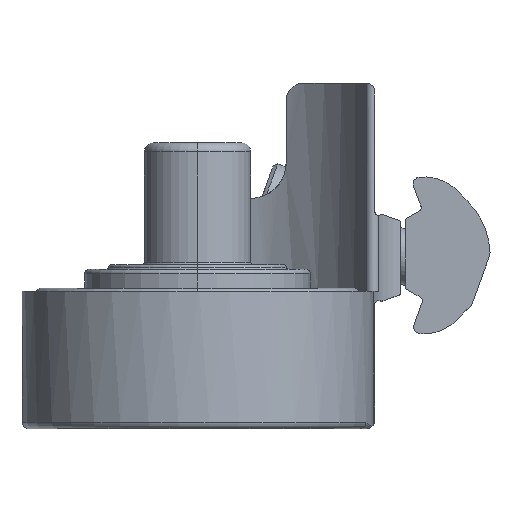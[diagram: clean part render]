
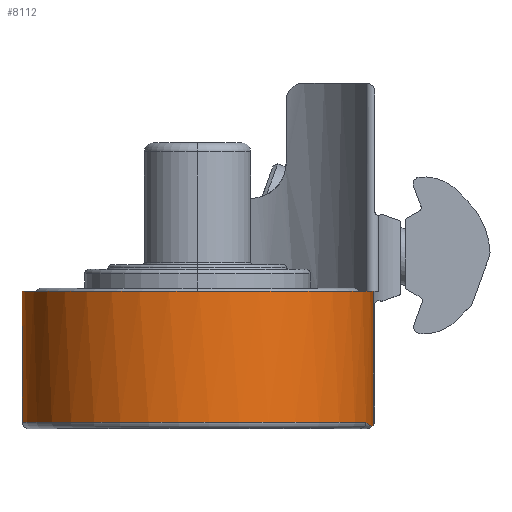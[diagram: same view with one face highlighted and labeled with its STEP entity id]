
A CAD part, left-side view. The second image highlights one B-rep face of the part: STEP entity #8112.
In plain terms, the highlighted cylindrical face has radius 19.8 mm (diameter 39.6 mm), a partial arc.
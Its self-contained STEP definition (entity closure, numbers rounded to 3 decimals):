
#230 = EDGE_CURVE ( 'NONE', #5181, #843, #6630, .T. ) ;
#410 = CARTESIAN_POINT ( 'NONE',  ( -0.442, 0.2, -19.1 ) ) ;
#517 = CARTESIAN_POINT ( 'NONE',  ( 0., 0.2, -19.1 ) ) ;
#673 = CARTESIAN_POINT ( 'NONE',  ( 0., 20., -18.738 ) ) ;
#843 = VERTEX_POINT ( 'NONE', #3829 ) ;
#893 = CARTESIAN_POINT ( 'NONE',  ( 18.079, 28.073, -18.738 ) ) ;
#988 = EDGE_CURVE ( 'NONE', #8105, #3961, #8562, .T. ) ;
#1322 = CARTESIAN_POINT ( 'NONE',  ( -5.571, 1., -18.738 ) ) ;
#1362 = CARTESIAN_POINT ( 'NONE',  ( -5.571, 1., -18.738 ) ) ;
#1379 = EDGE_CURVE ( 'NONE', #5181, #7176, #7274, .T. ) ;
#1609 = CARTESIAN_POINT ( 'NONE',  ( 0., 20., -4. ) ) ;
#1653 = ORIENTED_EDGE ( 'NONE', *, *, #1379, .T. ) ;
#1677 = CARTESIAN_POINT ( 'NONE',  ( 19.393, 23.992, -7. ) ) ;
#1702 = ORIENTED_EDGE ( 'NONE', *, *, #230, .F. ) ;
#1725 = LINE ( 'NONE', #8455, #2103 ) ;
#1740 = AXIS2_PLACEMENT_3D ( 'NONE', #8658, #8853, #3006 ) ;
#1901 = CARTESIAN_POINT ( 'NONE',  ( 0., 0.2, -19.1 ) ) ;
#2083 = DIRECTION ( 'NONE',  ( 0., 0., 1. ) ) ;
#2103 = VECTOR ( 'NONE', #7551, 1000. ) ;
#2200 = EDGE_LOOP ( 'NONE', ( #1702, #1653, #6513, #9129, #7645, #3227, #9171, #5737 ) ) ;
#2304 = CARTESIAN_POINT ( 'NONE',  ( 0., 20., -7. ) ) ;
#2421 = AXIS2_PLACEMENT_3D ( 'NONE', #2304, #6806, #3955 ) ;
#2695 = CARTESIAN_POINT ( 'NONE',  ( 18.079, 28.073, -19.5 ) ) ;
#3006 = DIRECTION ( 'NONE',  ( 1., 0., 0. ) ) ;
#3227 = ORIENTED_EDGE ( 'NONE', *, *, #7426, .F. ) ;
#3378 = CARTESIAN_POINT ( 'NONE',  ( -2.634, 0.376, -19.281 ) ) ;
#3518 = VECTOR ( 'NONE', #5648, 1000. ) ;
#3829 = CARTESIAN_POINT ( 'NONE',  ( 0., 0.2, -4. ) ) ;
#3955 = DIRECTION ( 'NONE',  ( 1., 0., 0. ) ) ;
#3961 = VERTEX_POINT ( 'NONE', #7529 ) ;
#4293 = CARTESIAN_POINT ( 'NONE',  ( -2.634, 0.376, -19.281 ) ) ;
#4374 = DIRECTION ( 'NONE',  ( 0.913, 0.408, 0. ) ) ;
#4467 = AXIS2_PLACEMENT_3D ( 'NONE', #1609, #5308, #4721 ) ;
#4721 = DIRECTION ( 'NONE',  ( 1., 0., 0. ) ) ;
#4829 = CARTESIAN_POINT ( 'NONE',  ( -1.761, 0.274, -19.189 ) ) ;
#4925 = CARTESIAN_POINT ( 'NONE',  ( -2.199, 0.318, -19.235 ) ) ;
#5181 = VERTEX_POINT ( 'NONE', #6450 ) ;
#5308 = DIRECTION ( 'NONE',  ( 0., 0., 1. ) ) ;
#5648 = DIRECTION ( 'NONE',  ( 0., 0., 1. ) ) ;
#5725 = CYLINDRICAL_SURFACE ( 'NONE', #1740, 19.8 ) ;
#5737 = ORIENTED_EDGE ( 'NONE', *, *, #5864, .T. ) ;
#5772 = CARTESIAN_POINT ( 'NONE',  ( 19.393, 23.992, -19.5 ) ) ;
#5864 = EDGE_CURVE ( 'NONE', #8105, #843, #1725, .T. ) ;
#6149 = VECTOR ( 'NONE', #7219, 1000. ) ;
#6450 = CARTESIAN_POINT ( 'NONE',  ( 19.393, 23.992, -4. ) ) ;
#6513 = ORIENTED_EDGE ( 'NONE', *, *, #7608, .T. ) ;
#6598 = CIRCLE ( 'NONE', #2421, 19.8 ) ;
#6630 = CIRCLE ( 'NONE', #4467, 19.8 ) ;
#6686 = B_SPLINE_CURVE_WITH_KNOTS ( 'NONE', 3,
 ( #4293, #7964, #7392, #1322 ),
 .UNSPECIFIED., .F., .F.,
 ( 4, 4 ),
 ( 0.001, 0.004 ),
 .UNSPECIFIED. ) ;
#6806 = DIRECTION ( 'NONE',  ( 0., 0., 1. ) ) ;
#6825 = CARTESIAN_POINT ( 'NONE',  ( 18.079, 28.073, -7. ) ) ;
#7176 = VERTEX_POINT ( 'NONE', #1677 ) ;
#7219 = DIRECTION ( 'NONE',  ( 0., 0., -1. ) ) ;
#7274 = LINE ( 'NONE', #5772, #6149 ) ;
#7355 = EDGE_CURVE ( 'NONE', #8841, #8282, #9379, .T. ) ;
#7392 = CARTESIAN_POINT ( 'NONE',  ( -4.612, 0.719, -18.934 ) ) ;
#7426 = EDGE_CURVE ( 'NONE', #3961, #7789, #6686, .T. ) ;
#7529 = CARTESIAN_POINT ( 'NONE',  ( -2.634, 0.376, -19.281 ) ) ;
#7551 = DIRECTION ( 'NONE',  ( 0., 0., 1. ) ) ;
#7608 = EDGE_CURVE ( 'NONE', #7176, #8282, #6598, .T. ) ;
#7645 = ORIENTED_EDGE ( 'NONE', *, *, #7856, .T. ) ;
#7739 = CARTESIAN_POINT ( 'NONE',  ( -0.883, 0.215, -19.121 ) ) ;
#7789 = VERTEX_POINT ( 'NONE', #1362 ) ;
#7856 = EDGE_CURVE ( 'NONE', #8841, #7789, #8866, .T. ) ;
#7964 = CARTESIAN_POINT ( 'NONE',  ( -3.632, 0.51, -19.132 ) ) ;
#8105 = VERTEX_POINT ( 'NONE', #517 ) ;
#8112 = ADVANCED_FACE ( 'NONE', ( #9400 ), #5725, .T. ) ;
#8242 = AXIS2_PLACEMENT_3D ( 'NONE', #673, #2083, #4374 ) ;
#8282 = VERTEX_POINT ( 'NONE', #6825 ) ;
#8455 = CARTESIAN_POINT ( 'NONE',  ( 0., 0.2, -19.5 ) ) ;
#8562 = B_SPLINE_CURVE_WITH_KNOTS ( 'NONE', 3,
 ( #1901, #410, #7739, #4829, #4925, #3378 ),
 .UNSPECIFIED., .F., .F.,
 ( 4, 2, 4 ),
 ( 0., 0.001, 0.003 ),
 .UNSPECIFIED. ) ;
#8658 = CARTESIAN_POINT ( 'NONE',  ( 0., 20., -19.5 ) ) ;
#8841 = VERTEX_POINT ( 'NONE', #893 ) ;
#8853 = DIRECTION ( 'NONE',  ( 0., 0., 1. ) ) ;
#8866 = CIRCLE ( 'NONE', #8242, 19.8 ) ;
#9129 = ORIENTED_EDGE ( 'NONE', *, *, #7355, .F. ) ;
#9171 = ORIENTED_EDGE ( 'NONE', *, *, #988, .F. ) ;
#9379 = LINE ( 'NONE', #2695, #3518 ) ;
#9400 = FACE_OUTER_BOUND ( 'NONE', #2200, .T. ) ;
